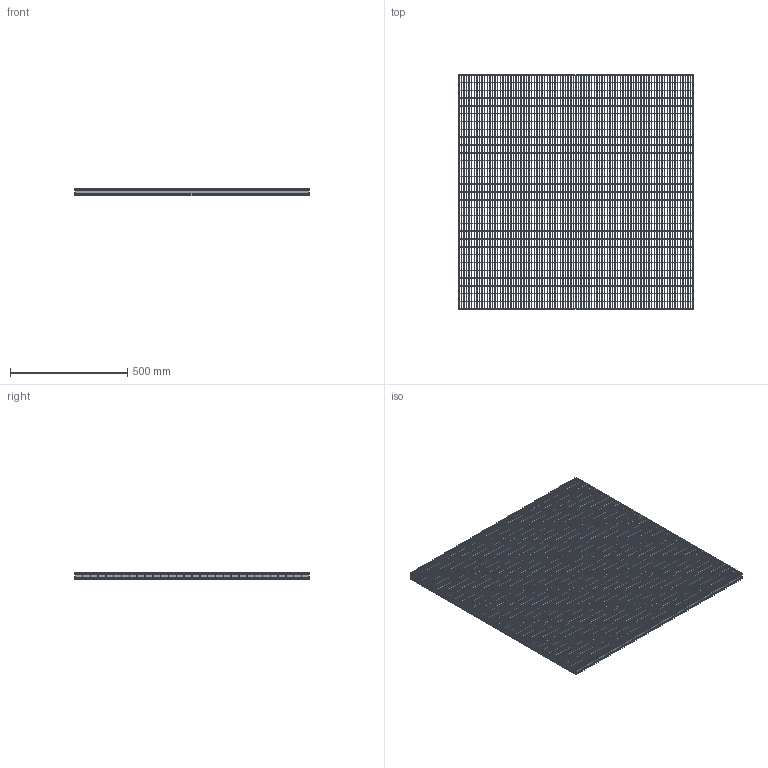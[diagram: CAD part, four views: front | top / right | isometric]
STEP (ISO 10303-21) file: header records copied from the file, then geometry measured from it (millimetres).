
FILE_DESCRIPTION(/* description */ ('STEP AP242','CAx-IF Rec.Pracs.---Representation and Presentation of Product Manufacturing Information (PMI)---4.0---2014-10-13','CAx-IF Rec.Pracs.---3D Tessellated Geometry---0.4---2014-09-14','2;1'),/* implementation_level */ '2;1');
FILE_NAME(/* name */ 'Lichtgitter_Pressure_locked_gratings P 230-33_11-2-1-1-1000-1000_(350_0)',/* time_stamp */ '2026-04-23T10:12:45+02:00',/* author */ ('License CC BY-ND 4.0'),/* organization */ ('CADENAS'),/* preprocessor_version */ 'ST-DEVELOPER v20',/* originating_system */ 'PARTsolutions',/* authorisation */ ' ');
FILE_SCHEMA (('AP242_MANAGED_MODEL_BASED_3D_ENGINEERING_MIM_LF { 1 0 10303 442 1 1 4 }'));
Length unit declared in the file: millimetre
Products named in the file (5): Lichtgitter_Pressure_locked_gratings P 230-33/11-2-1-1-1000-1000_(350
_0); Lichtgitter P 230-11.11/33-2_(Pressroste_350_1_1000_1000)_VERTICAL; Lichtgitter P 230-11.11/33-2_(Pressroste_350_1_1000_1000)_HORIZONTAL_
C; Lichtgitter P 230-11.11/33-2_(Pressroste_350_1_1000_1000)_HORIZONTAL; Lichtgitter P 230-11.11/33-2_(Pressroste_350_1_1000_1000)_VERTICAL_C
Assembly tree (122 placements, depth 2):
  Lichtgitter_Pressure_locked_gratings P 230-33/11-2-1-1-1000-1000_(350
_0)
    Lichtgitter P 230-11.11/33-2_(Pressroste_350_1_1000_1000)_VERTICAL  x2
    Lichtgitter P 230-11.11/33-2_(Pressroste_350_1_1000_1000)_HORIZONTAL_
C  x29
    Lichtgitter P 230-11.11/33-2_(Pressroste_350_1_1000_1000)_HORIZONTAL  x2
    Lichtgitter P 230-11.11/33-2_(Pressroste_350_1_1000_1000)_VERTICAL_C  x89
Bounding box: 1000 x 1000 x 30 mm (x, y, z)
Volume: 3675115 mm3; surface area: 4258466.2 mm2
Topology: 122 solids, 122 shells, 11104 faces, 32580 edges, 21720 vertices
Faces by surface type: plane 11072, cylinder 32
Entity records: 14247 total; most frequent: CARTESIAN_POINT 2507, ORIENTED_EDGE 2376, DIRECTION 2274, EDGE_CURVE 1188, LINE 1156, VECTOR 1156, VERTEX_POINT 792, AXIS2_PLACEMENT_3D 559
